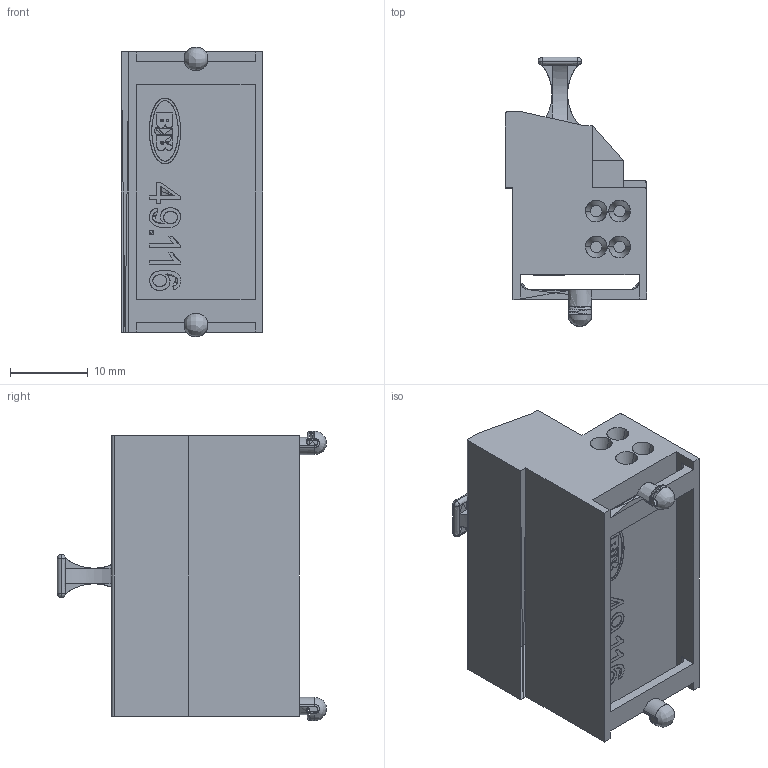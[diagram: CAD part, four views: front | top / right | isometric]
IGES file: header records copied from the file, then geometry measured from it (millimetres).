
Global section: file name: C:\Programme\core_technologie\in\00VYJ00Y04.igs; native system: CT CoreTechnologie 3D Evolution; preprocessor: 2006; author: assmuth; date: 100304.133239; units: millimetre
Bounding box: 18.2 x 34.6 x 37.2 mm (x, y, z)
Surface area: 4433.4 mm2 (no closed solid volume)
Topology: 0 solids, 0 shells, 261 faces, 1272 edges, 1242 vertices
Faces by surface type: bspline 261
